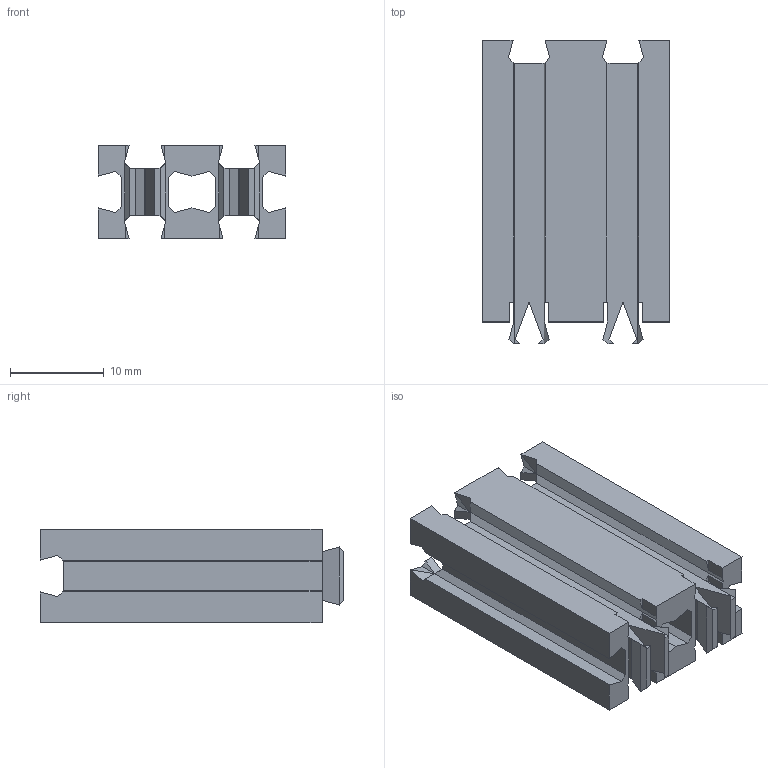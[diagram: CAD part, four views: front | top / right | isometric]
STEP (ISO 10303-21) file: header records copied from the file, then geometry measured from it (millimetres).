
FILE_DESCRIPTION(/* description */ (''),/* implementation_level */ '2;1');
FILE_NAME(/* name */ 'C:/Users/priba/Downloads/Brick1x2x3Cross.step',/* time_stamp */ '2020-06-09T22:12:42+02:00',/* author */ (''),/* organization */ (''),/* preprocessor_version */ 'ST-DEVELOPER v18.1',/* originating_system */ 'Autodesk Translation Framework v9.3.0.1241',/* authorisation */ '');
FILE_SCHEMA (('AUTOMOTIVE_DESIGN { 1 0 10303 214 3 1 1 }'));
Length unit declared in the file: millimetre
Products named in the file (1): Brick1x2x3Cross
Bounding box: 20 x 32.31 x 10 mm (x, y, z)
Volume: 3585.8 mm3; surface area: 3710.3 mm2
Topology: 1 solids, 1 shells, 203 faces, 488 edges, 286 vertices
Faces by surface type: plane 203
Entity records: 5644 total; most frequent: CARTESIAN_POINT 978, ORIENTED_EDGE 976, DIRECTION 896, LINE 488, VECTOR 488, EDGE_CURVE 488, VERTEX_POINT 286, EDGE_LOOP 204
